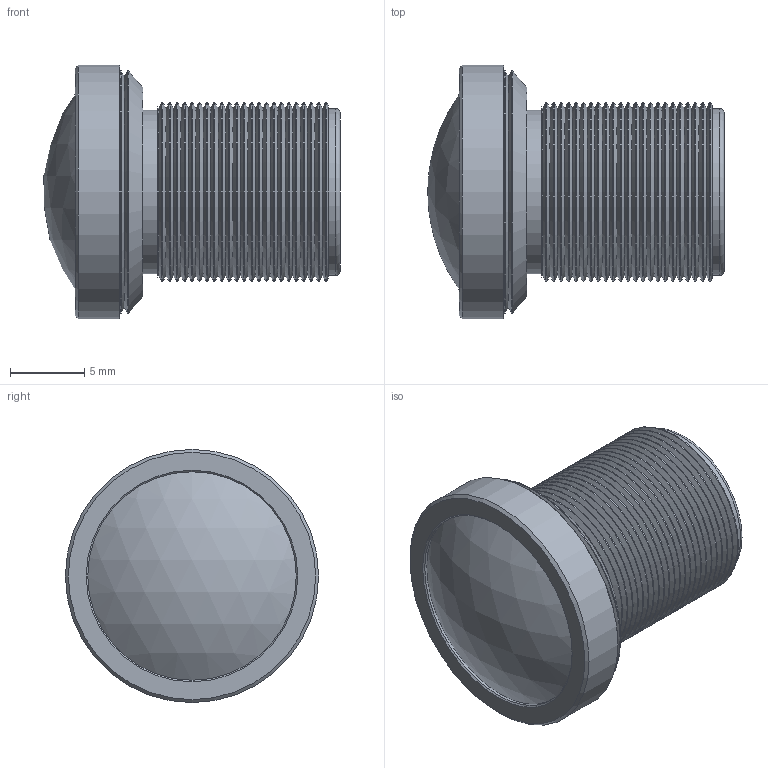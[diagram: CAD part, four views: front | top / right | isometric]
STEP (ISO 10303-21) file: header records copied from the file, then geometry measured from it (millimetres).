
FILE_DESCRIPTION(/* description */ ('STEP AP214'),/* implementation_level */ '2;1');
FILE_NAME(/* name */ 'CIL924-F2.4-M12A650.stp',/* time_stamp */ '2026-04-24T12:38:07-07:00',/* author */ ('ElizabethPry'),/* organization */ (''),/* preprocessor_version */ 'ST-DEVELOPER v20',/* originating_system */ 'Autodesk Inventor 2025',/* authorisation */ '');
FILE_SCHEMA (('AUTOMOTIVE_DESIGN { 1 0 10303 214 3 1 1 }'));
Length unit declared in the file: millimetre
Products named in the file (1): 924
Bounding box: 19.9 x 17 x 17 mm (x, y, z)
Volume: 2391.7 mm3; surface area: 1790.9 mm2
Topology: 1 solids, 2 shells, 105 faces, 248 edges, 156 vertices
Faces by surface type: cone 57, cylinder 34, plane 11, sphere 2, torus 1
Full cylindrical faces by diameter (mm): 7 x1, 9 x1, 9.2 x1, 9.5 x1, 10.2 x1, 11 x1, 11.2 x1, 12 x23, 14 x1, 16.258 x2, 17 x1
Entity records: 3125 total; most frequent: DIRECTION 617, CARTESIAN_POINT 510, ORIENTED_EDGE 496, AXIS2_PLACEMENT_3D 263, EDGE_CURVE 248, CIRCLE 157, VERTEX_POINT 156, EDGE_LOOP 114
